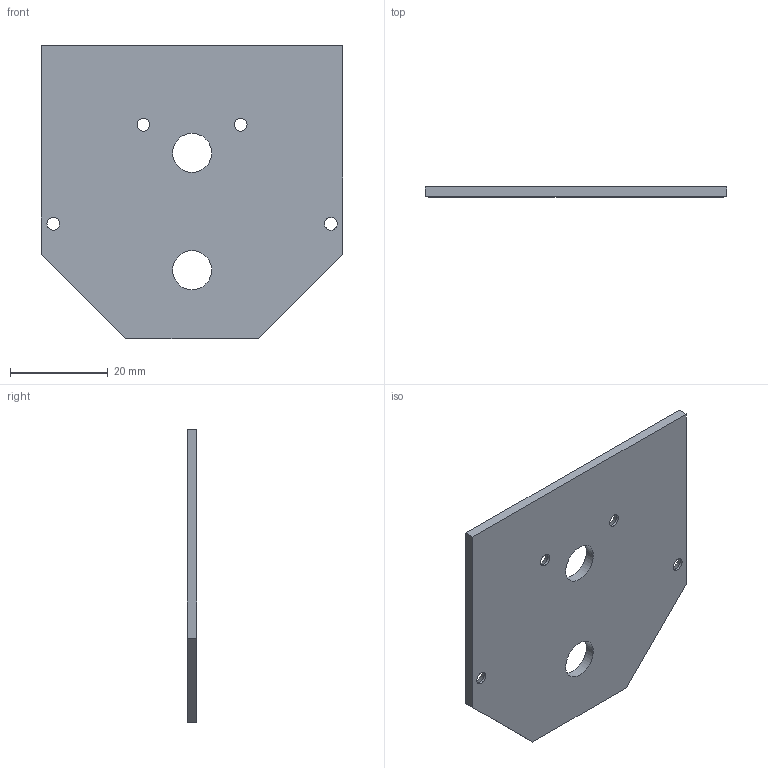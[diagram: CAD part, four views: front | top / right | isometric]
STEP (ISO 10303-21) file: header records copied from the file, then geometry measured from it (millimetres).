
FILE_DESCRIPTION((''),'2;1');
FILE_NAME('RU20-2-DT','2025-03-25T16:26:31',('Administrator'),(''),'CREO PARAMETRIC BY PTC INC, 2020053','CREO PARAMETRIC BY PTC INC, 2020053','');
FILE_SCHEMA(('CONFIG_CONTROL_DESIGN'));
Length unit declared in the file: millimetre
Products named in the file (1): RU20-2-DT
Bounding box: 61.7 x 2 x 60 mm (x, y, z)
Volume: 6533.3 mm3; surface area: 7163.6 mm2
Topology: 1 solids, 1 shells, 28 faces, 70 edges, 44 vertices
Faces by surface type: cylinder 12, plane 8, cone 8
Entity records: 904 total; most frequent: DIRECTION 158, CARTESIAN_POINT 142, ORIENTED_EDGE 140, EDGE_CURVE 70, AXIS2_PLACEMENT_3D 60, VERTEX_POINT 44, EDGE_LOOP 40, VECTOR 38
